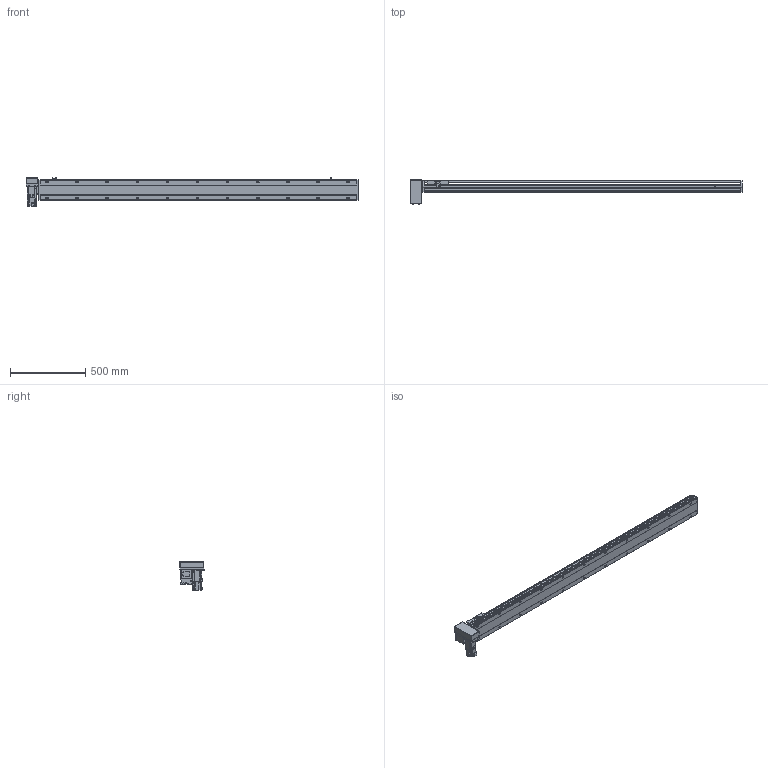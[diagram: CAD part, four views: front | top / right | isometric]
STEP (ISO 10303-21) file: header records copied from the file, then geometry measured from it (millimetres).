
FILE_DESCRIPTION( ( 'STEP AP214' ), '1' );
FILE_NAME( 'x:/temp/worker_3/temp/exporttempdir_5796_20_US4al/format_0/PBS140-P40-S1850-RD-T40-C1-N(0).stp', '2022-06-07T05:36:08', ( 'License CC BY-ND 4.0' ), ( 'CADENAS' ), ' ', 'PARTsolutions', ' ' );
FILE_SCHEMA( ( 'AUTOMOTIVE_DESIGN { 1 0 10303 214 1 1 1 1 }' ) );
Length unit declared in the file: millimetre
Products named in the file (7): PBS140-P40-S1850-RD-T40-C1-N(0); _PBS140-S1850()_body; _PBS140T-RD_motors; _T40-p1; _PBS140_sliser; _PBS140_plant; _PBS140_sensor
Assembly tree (8 placements, depth 2):
  PBS140-P40-S1850-RD-T40-C1-N(0)
    _PBS140-S1850()_body
    _PBS140T-RD_motors
    _T40-p1
    _PBS140_sliser
    _PBS140_plant
    _PBS140_sensor  x3
Bounding box: 2204 x 162 x 189.7 mm (x, y, z)
Volume: 10077315.9 mm3; surface area: 1728635.9 mm2
Topology: 8 solids, 8 shells, 1123 faces, 2956 edges, 1931 vertices
Faces by surface type: plane 710, cylinder 355, cone 48, sphere 8, torus 2
Full cylindrical faces by diameter (mm): 3.242 x4, 4 x2, 4.134 x4, 4.4 x8, 4.5 x2, 4.8 x4, 4.917 x30, 5.5 x7, 6 x2, 7 x24, 7.5 x8, 8 x12, 8.5 x4, 10.5 x22, 14 x1, 30 x2, 50 x2
Entity records: 41215 total; most frequent: CARTESIAN_POINT 6755, DIRECTION 5407, ORIENTED_EDGE 5092, EDGE_CURVE 2546, AXIS2_PLACEMENT_3D 1897, VERTEX_POINT 1773, LINE 1613, VECTOR 1613
